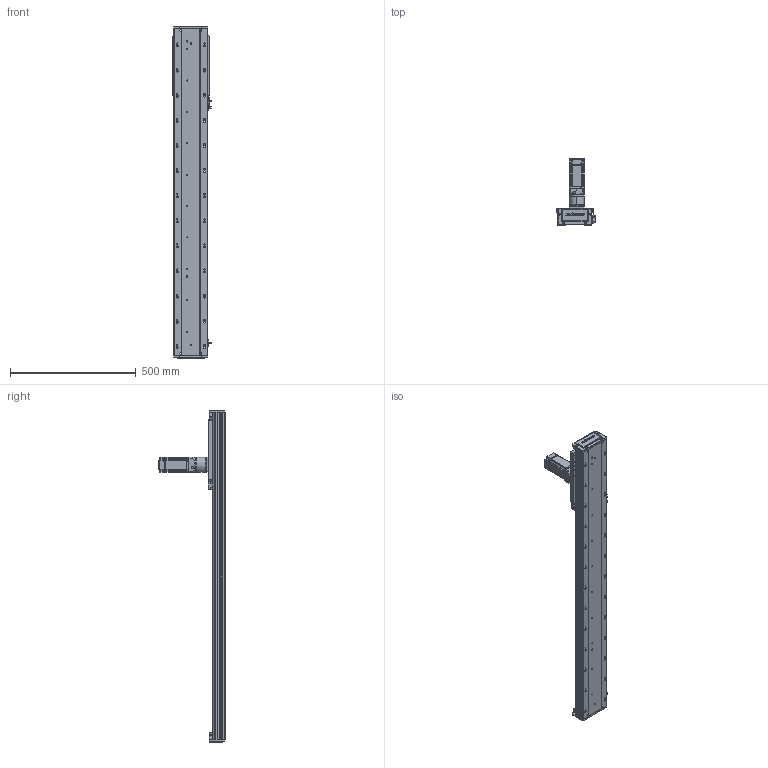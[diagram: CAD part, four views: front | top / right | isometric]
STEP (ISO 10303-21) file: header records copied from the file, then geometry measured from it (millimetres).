
FILE_DESCRIPTION (( 'STEP AP203' ), '1' );
FILE_NAME ('RY140-C-250-UK.SLDASM_950.step', '2022-03-12T01:58:44', ( '' ), ( '' ), 'SwSTEP 2.0', 'SolidWorks 2016', '' );
FILE_SCHEMA (( 'CONFIG_CONTROL_DESIGN' ));
Length unit declared in the file: millimetre
Products named in the file (12): RY140-喘沭賑輸; 140蚥薯蝶輸; RY140-絳寢EGH15-300-MK_950; RY140-C-250-UK.SLDASM_950; RY120外置感应片(140共用）; RY140-喘沭裔啣; RY140-喘謫萇儂覃誹啣; 覜茼ん672; 60ZDF珨撰俋倛芞T1 200W M4; 15; RY140-300齿条模组型材底座_950; 絳寢賑輸EGH15
Assembly tree (21 placements, depth 2):
  RY140-C-250-UK.SLDASM_950
    RY140-300齿条模组型材底座_950
    RY140-絳寢EGH15-300-MK_950  x2
    絳寢賑輸EGH15  x6
    RY140-喘沭裔啣  x2
    覜茼ん672  x3
    RY140-喘沭賑輸
    RY120外置感应片(140共用）
    RY140-喘謫萇儂覃誹啣
    140蚥薯蝶輸  x2
    60ZDF珨撰俋倛芞T1 200W M4
    15
Bounding box: 153.7 x 263.5 x 1322 mm (x, y, z)
Volume: 4930425.8 mm3; surface area: 1282859.9 mm2
Topology: 21 solids, 21 shells, 3392 faces, 8998 edges, 5822 vertices
Faces by surface type: plane 1644, cylinder 1466, cone 236, bspline 46
Entity records: 75529 total; most frequent: CARTESIAN_POINT 16364, DIRECTION 12049, ORIENTED_EDGE 11978, EDGE_CURVE 5989, AXIS2_PLACEMENT_3D 4284, VERTEX_POINT 3919, LINE 3481, VECTOR 3481
